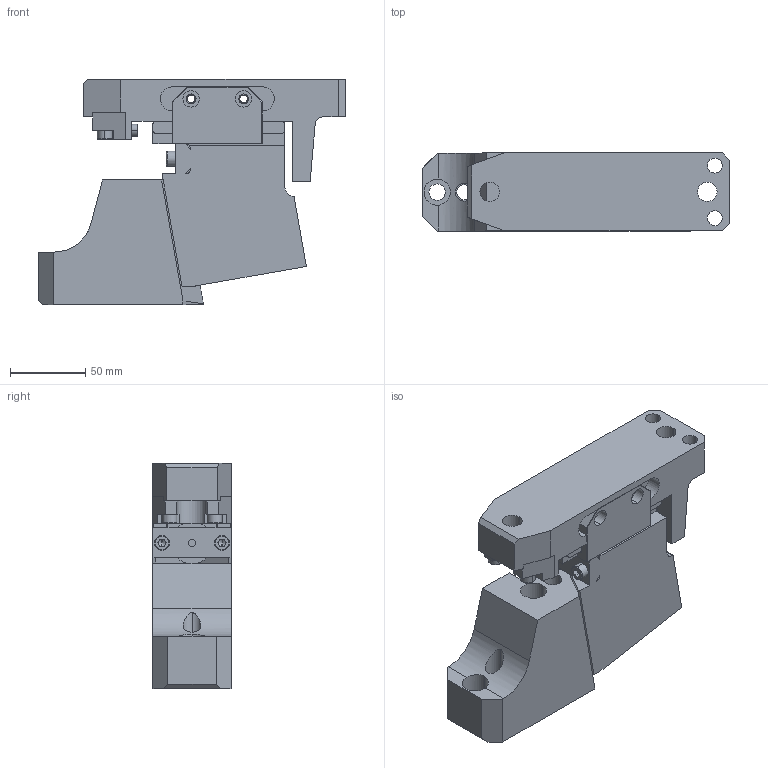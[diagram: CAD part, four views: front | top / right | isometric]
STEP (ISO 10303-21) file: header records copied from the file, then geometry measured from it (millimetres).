
FILE_DESCRIPTION (( 'STEP AP203' ), '1' );
FILE_NAME ('CLD052.80.step', '2014-05-05T08:35:03', ( '' ), ( '' ), 'SwSTEP 2.0', 'SolidWorks 2013', '' );
FILE_SCHEMA (( 'CONFIG_CONTROL_DESIGN' ));
Length unit declared in the file: millimetre
Products named in the file (4): CLD05280-02 CAM SLIDER; CLD05280-03 CAM DRIVER; CLD052.80; CLD05280-01 CAM BASE
Assembly tree (3 placements, depth 2):
  CLD052.80
    CLD05280-01 CAM BASE
    CLD05280-02 CAM SLIDER
    CLD05280-03 CAM DRIVER
Bounding box: 205 x 52 x 150 mm (x, y, z)
Volume: 899001.8 mm3; surface area: 143359.3 mm2
Topology: 3 solids, 11 shells, 463 faces, 1180 edges, 735 vertices
Faces by surface type: plane 276, cylinder 134, cone 36, torus 17
Entity records: 14438 total; most frequent: CARTESIAN_POINT 2632, DIRECTION 2436, ORIENTED_EDGE 2324, EDGE_CURVE 1162, AXIS2_PLACEMENT_3D 829, VECTOR 778, LINE 778, VERTEX_POINT 735
